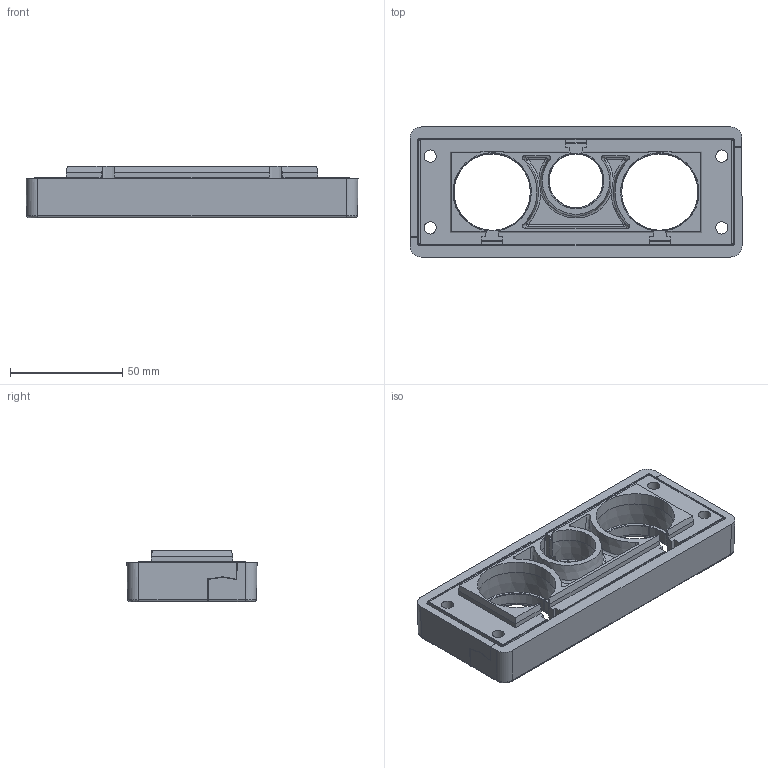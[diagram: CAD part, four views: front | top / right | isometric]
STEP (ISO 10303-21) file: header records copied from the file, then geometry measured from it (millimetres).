
FILE_DESCRIPTION(/* description */ (''),/* implementation_level */ '2;1');
FILE_NAME(/* name */ 'H:\SapWorkDir\Inventor\MP1\ConvertTempPath\87_11_121448_00_A_220620_KDL-D 24-3 ZSB.stp',/* time_stamp */ '2022-06-20T06:55:22+02:00',/* author */ ('BAUER'),/* organization */ (''),/* preprocessor_version */ 'ST-DEVELOPER v16.13',/* originating_system */ 'Autodesk Inventor 2018',/* authorisation */ '');
FILE_SCHEMA (('AUTOMOTIVE_DESIGN { 1 0 10303 214 3 1 1 }'));
Length unit declared in the file: millimetre
Products named in the file (4): 121448; Block2x6 neu; 121392; 121393
Assembly tree (3 placements, depth 2):
  121448
    Block2x6 neu
    121392
    121393
Bounding box: 148 x 58 x 23 mm (x, y, z)
Volume: 102364.1 mm3; surface area: 52978 mm2
Topology: 3 solids, 3 shells, 1108 faces, 2911 edges, 1867 vertices
Faces by surface type: plane 628, bspline 214, cylinder 184, cone 34, torus 27, sphere 21
Full cylindrical faces by diameter (mm): 5 x4, 5.5 x10, 6 x2
Entity records: 36761 total; most frequent: CARTESIAN_POINT 10122, ORIENTED_EDGE 5708, DIRECTION 4948, EDGE_CURVE 2854, LINE 1920, VECTOR 1920, VERTEX_POINT 1857, AXIS2_PLACEMENT_3D 1514
